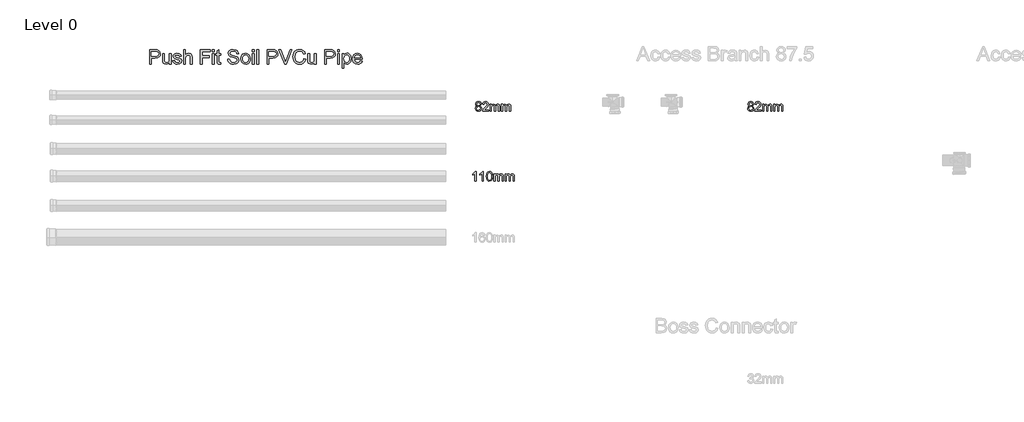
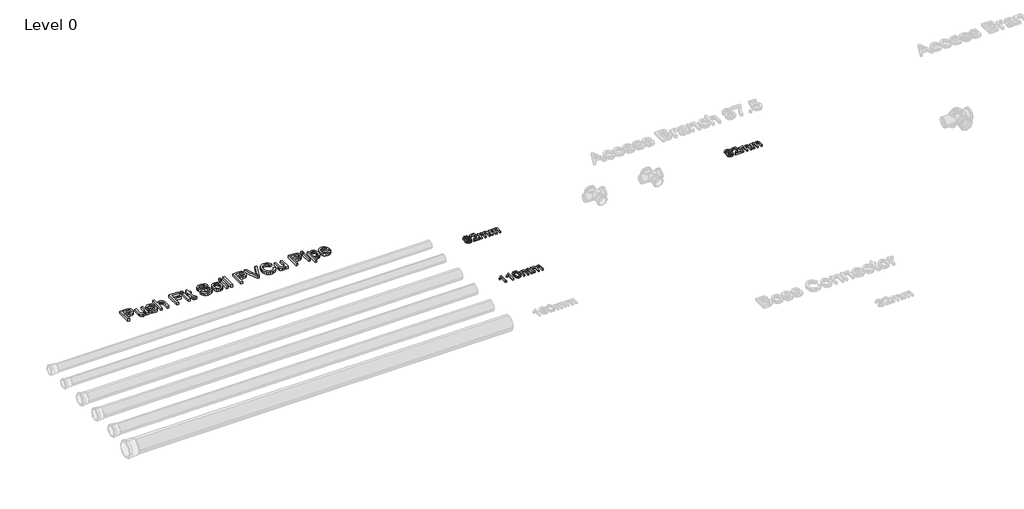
# One storey, part 9 of 23: 4 proxies.
"""IFC4 building model written with IfcOpenShell, lengths in millimetres."""

from ifc_helpers import new_model, si_unit, origin, origin_with_axes, place, context, project, spatial, polyline, outline, extrude, element, save

model = new_model("IFC4")

# Units and contexts
model_context = context("Model", 3, world=origin())
ifc_project = project(units=[si_unit("LENGTHUNIT", "METRE", prefix="MILLI")], contexts=[model_context])

# Site, building, storey
site = spatial("IfcSite", under=ifc_project)
building = spatial("IfcBuilding", under=site)
storey = spatial("IfcBuildingStorey", under=building, Name="Level 0", Elevation=0.0)

# Proxies
placement = place(None, origin())
element("IfcBuildingElementProxy", 1, Name="100mm Arial", ObjectType="100mm Arial", at=placement, inside=storey, context=model_context, shape_type="SweptSolid", body=[
    extrude(outline(polyline([(-20782.2581649, 8840.881174), (-20793.4721072, 8848.5254048), (-20797.1139341, 8860.4244433), (-20795.1307611, 8870.0458375), (-20789.1812418, 8877.9965587), (-20779.9324438, 8883.3330971), (-20768.0514341, 8885.1119433), (-20756.0983091, 8883.2910298), (-20746.7293188, 8877.8282894), (-20740.6716264, 8869.7513663), (-20738.6523957, 8860.0879048), (-20742.2461457, 8848.4893471), (-20753.147588, 8840.881174), (-20740.0586457, 8831.2297317), (-20735.5754726, 8815.304251), (-20737.7990303, 8803.537424), (-20744.4697034, 8793.8138663), (-20754.7701841, 8787.287424), (-20767.8831649, 8785.1119433), (-20780.9961457, 8787.2964385), (-20791.2966264, 8793.849924), (-20797.9672995, 8803.6666308), (-20800.1908572, 8815.6407894), (-20795.5273957, 8831.9388663), (-20782.2581649, 8840.881174)]), holes=[polyline([(-20784.8062418, 8860.0638663), (-20780.4432611, 8850.4004048), (-20767.7389341, 8846.6504048), (-20755.2870111, 8850.3763663), (-20750.960088, 8859.5109817), (-20755.4312418, 8868.9701163), (-20767.8831649, 8872.804251), (-20780.3711457, 8869.054251), (-20784.8062418, 8860.0638663)]), polyline([(-20787.8831649, 8816.0734817), (-20785.8278764, 8806.8066548), (-20778.5562418, 8799.8715587), (-20767.7870111, 8797.4196356), (-20753.1235495, 8802.5758856), (-20747.8831649, 8815.6888663), (-20753.2918188, 8829.054251), (-20759.7221072, 8833.0205971), (-20768.1956649, 8834.3427125), (-20782.678838, 8829.1263663), (-20787.8831649, 8816.0734817)])]), origin_with_axes(), (0.0, 0.0, 1.0), 15.0),
    extrude(outline(polyline([(-20661.7293188, 8798.9580971), (-20661.7293188, 8786.6504048), (-20726.3447034, 8786.6504048), (-20725.022588, 8795.1359817), (-20717.5466264, 8808.2008856), (-20702.1379726, 8822.4677125), (-20680.8879726, 8842.9725202), (-20675.5754726, 8856.9148279), (-20680.5874918, 8868.2008856), (-20693.6764341, 8872.804251), (-20707.3182611, 8868.3090587), (-20712.4985495, 8855.881174), (-20724.8062418, 8857.4196356), (-20721.8224678, 8869.3246837), (-20715.3711457, 8878.0205971), (-20705.7888139, 8883.3391067), (-20693.4120111, 8885.1119433), (-20680.9450639, 8883.1407894), (-20671.3807611, 8877.2273279), (-20665.2960255, 8868.3931933), (-20663.2677803, 8857.6600202), (-20665.4552803, 8845.9893471), (-20672.7269149, 8833.9220394), (-20690.3591264, 8817.0590587), (-20704.5177803, 8805.2201163), (-20710.0706649, 8798.9580971), (-20661.7293188, 8798.9580971)])), origin_with_axes(), (0.0, 0.0, 1.0), 15.0),
    extrude(outline(polyline([(-20646.3447034, 8786.6504048), (-20646.3447034, 8858.9580971), (-20634.0370111, 8858.9580971), (-20634.0370111, 8847.0590587), (-20625.5754726, 8856.8066548), (-20613.5322034, 8860.4965587), (-20601.2004726, 8856.7345394), (-20594.4216264, 8846.193674), (-20584.8182611, 8856.9208375), (-20572.6908572, 8860.4965587), (-20563.4390543, 8859.0091788), (-20556.5971072, 8854.5470394), (-20552.3693428, 8846.9899481), (-20550.960088, 8836.2177125), (-20550.960088, 8786.6504048), (-20563.2677803, 8786.6504048), (-20563.2677803, 8830.929251), (-20564.4096072, 8841.2056933), (-20568.5442226, 8846.2657894), (-20575.5754726, 8848.1888663), (-20587.678838, 8843.2609817), (-20592.4985495, 8827.4677125), (-20592.4985495, 8786.6504048), (-20604.8062418, 8786.6504048), (-20604.8062418, 8832.2994433), (-20607.6547995, 8844.2225202), (-20616.9937418, 8848.1888663), (-20626.1043188, 8845.5446356), (-20632.1620111, 8837.804251), (-20634.0370111, 8823.116751), (-20634.0370111, 8786.6504048), (-20646.3447034, 8786.6504048)])), origin_with_axes(), (0.0, 0.0, 1.0), 15.0),
    extrude(outline(polyline([(-20532.4985495, 8786.6504048), (-20532.4985495, 8858.9580971), (-20520.1908572, 8858.9580971), (-20520.1908572, 8847.0590587), (-20511.7293188, 8856.8066548), (-20499.6860495, 8860.4965587), (-20487.3543188, 8856.7345394), (-20480.5754726, 8846.193674), (-20470.9721072, 8856.9208375), (-20458.8447034, 8860.4965587), (-20449.5929005, 8859.0091788), (-20442.7509534, 8854.5470394), (-20438.5231889, 8846.9899481), (-20437.1139341, 8836.2177125), (-20437.1139341, 8786.6504048), (-20449.4216264, 8786.6504048), (-20449.4216264, 8830.929251), (-20450.5634534, 8841.2056933), (-20454.6980688, 8846.2657894), (-20461.7293188, 8848.1888663), (-20473.8326841, 8843.2609817), (-20478.6523957, 8827.4677125), (-20478.6523957, 8786.6504048), (-20490.960088, 8786.6504048), (-20490.960088, 8832.2994433), (-20493.8086457, 8844.2225202), (-20503.147588, 8848.1888663), (-20512.2581649, 8845.5446356), (-20518.3158572, 8837.804251), (-20520.1908572, 8823.116751), (-20520.1908572, 8786.6504048), (-20532.4985495, 8786.6504048)])), origin_with_axes(), (0.0, 0.0, 1.0), 15.0),
])
element("IfcBuildingElementProxy", 2, Name="100mm Arial", ObjectType="100mm Arial", at=placement, inside=storey, context=model_context, shape_type="SweptSolid", body=[
    extrude(outline(polyline([(-23582.2581649, 8840.881174), (-23593.4721072, 8848.5254048), (-23597.1139341, 8860.4244433), (-23595.1307611, 8870.0458375), (-23589.1812418, 8877.9965587), (-23579.9324438, 8883.3330971), (-23568.0514341, 8885.1119433), (-23556.0983091, 8883.2910298), (-23546.7293188, 8877.8282894), (-23540.6716264, 8869.7513663), (-23538.6523957, 8860.0879048), (-23542.2461457, 8848.4893471), (-23553.147588, 8840.881174), (-23540.0586457, 8831.2297317), (-23535.5754726, 8815.304251), (-23537.7990303, 8803.537424), (-23544.4697034, 8793.8138663), (-23554.7701841, 8787.287424), (-23567.8831649, 8785.1119433), (-23580.9961457, 8787.2964385), (-23591.2966264, 8793.849924), (-23597.9672995, 8803.6666308), (-23600.1908572, 8815.6407894), (-23595.5273957, 8831.9388663), (-23582.2581649, 8840.881174)]), holes=[polyline([(-23584.8062418, 8860.0638663), (-23580.4432611, 8850.4004048), (-23567.7389341, 8846.6504048), (-23555.2870111, 8850.3763663), (-23550.960088, 8859.5109817), (-23555.4312418, 8868.9701163), (-23567.8831649, 8872.804251), (-23580.3711457, 8869.054251), (-23584.8062418, 8860.0638663)]), polyline([(-23587.8831649, 8816.0734817), (-23585.8278764, 8806.8066548), (-23578.5562418, 8799.8715587), (-23567.7870111, 8797.4196356), (-23553.1235495, 8802.5758856), (-23547.8831649, 8815.6888663), (-23553.2918188, 8829.054251), (-23559.7221072, 8833.0205971), (-23568.1956649, 8834.3427125), (-23582.678838, 8829.1263663), (-23587.8831649, 8816.0734817)])]), origin_with_axes(), (0.0, 0.0, 1.0), 15.0),
    extrude(outline(polyline([(-23461.7293188, 8798.9580971), (-23461.7293188, 8786.6504048), (-23526.3447034, 8786.6504048), (-23525.022588, 8795.1359817), (-23517.5466264, 8808.2008856), (-23502.1379726, 8822.4677125), (-23480.8879726, 8842.9725202), (-23475.5754726, 8856.9148279), (-23480.5874918, 8868.2008856), (-23493.6764341, 8872.804251), (-23507.3182611, 8868.3090587), (-23512.4985495, 8855.881174), (-23524.8062418, 8857.4196356), (-23521.8224678, 8869.3246837), (-23515.3711457, 8878.0205971), (-23505.7888139, 8883.3391067), (-23493.4120111, 8885.1119433), (-23480.9450639, 8883.1407894), (-23471.3807611, 8877.2273279), (-23465.2960255, 8868.3931933), (-23463.2677803, 8857.6600202), (-23465.4552803, 8845.9893471), (-23472.7269149, 8833.9220394), (-23490.3591264, 8817.0590587), (-23504.5177803, 8805.2201163), (-23510.0706649, 8798.9580971), (-23461.7293188, 8798.9580971)])), origin_with_axes(), (0.0, 0.0, 1.0), 15.0),
    extrude(outline(polyline([(-23446.3447034, 8786.6504048), (-23446.3447034, 8858.9580971), (-23434.0370111, 8858.9580971), (-23434.0370111, 8847.0590587), (-23425.5754726, 8856.8066548), (-23413.5322034, 8860.4965587), (-23401.2004726, 8856.7345394), (-23394.4216264, 8846.193674), (-23384.8182611, 8856.9208375), (-23372.6908572, 8860.4965587), (-23363.4390543, 8859.0091788), (-23356.5971072, 8854.5470394), (-23352.3693428, 8846.9899481), (-23350.960088, 8836.2177125), (-23350.960088, 8786.6504048), (-23363.2677803, 8786.6504048), (-23363.2677803, 8830.929251), (-23364.4096072, 8841.2056933), (-23368.5442226, 8846.2657894), (-23375.5754726, 8848.1888663), (-23387.678838, 8843.2609817), (-23392.4985495, 8827.4677125), (-23392.4985495, 8786.6504048), (-23404.8062418, 8786.6504048), (-23404.8062418, 8832.2994433), (-23407.6547995, 8844.2225202), (-23416.9937418, 8848.1888663), (-23426.1043188, 8845.5446356), (-23432.1620111, 8837.804251), (-23434.0370111, 8823.116751), (-23434.0370111, 8786.6504048), (-23446.3447034, 8786.6504048)])), origin_with_axes(), (0.0, 0.0, 1.0), 15.0),
    extrude(outline(polyline([(-23332.4985495, 8786.6504048), (-23332.4985495, 8858.9580971), (-23320.1908572, 8858.9580971), (-23320.1908572, 8847.0590587), (-23311.7293188, 8856.8066548), (-23299.6860495, 8860.4965587), (-23287.3543188, 8856.7345394), (-23280.5754726, 8846.193674), (-23270.9721072, 8856.9208375), (-23258.8447034, 8860.4965587), (-23249.5929005, 8859.0091788), (-23242.7509534, 8854.5470394), (-23238.5231889, 8846.9899481), (-23237.1139341, 8836.2177125), (-23237.1139341, 8786.6504048), (-23249.4216264, 8786.6504048), (-23249.4216264, 8830.929251), (-23250.5634534, 8841.2056933), (-23254.6980688, 8846.2657894), (-23261.7293188, 8848.1888663), (-23273.8326841, 8843.2609817), (-23278.6523957, 8827.4677125), (-23278.6523957, 8786.6504048), (-23290.960088, 8786.6504048), (-23290.960088, 8832.2994433), (-23293.8086457, 8844.2225202), (-23303.147588, 8848.1888663), (-23312.2581649, 8845.5446356), (-23318.3158572, 8837.804251), (-23320.1908572, 8823.116751), (-23320.1908572, 8786.6504048), (-23332.4985495, 8786.6504048)])), origin_with_axes(), (0.0, 0.0, 1.0), 15.0),
])
element("IfcBuildingElementProxy", 3, Name="100mm Arial", ObjectType="100mm Arial", at=placement, inside=storey, context=model_context, shape_type="SweptSolid", body=[
    extrude(outline(polyline([(-23591.7293188, 8067.8368131), (-23604.0370111, 8067.8368131), (-23604.0370111, 8144.5675823), (-23615.6956649, 8136.2622939), (-23628.6523957, 8130.0483515), (-23628.6523957, 8141.6829669), (-23610.6115303, 8153.19739), (-23599.6620111, 8166.2983515), (-23591.7293188, 8166.2983515), (-23591.7293188, 8067.8368131)])), origin_with_axes(), (0.0, 0.0, 1.0), 15.0),
    extrude(outline(polyline([(-23516.3447034, 8067.8368131), (-23528.6523957, 8067.8368131), (-23528.6523957, 8144.5675823), (-23540.3110495, 8136.2622939), (-23553.2677803, 8130.0483515), (-23553.2677803, 8141.6829669), (-23535.2269149, 8153.19739), (-23524.2773957, 8166.2983515), (-23516.3447034, 8166.2983515), (-23516.3447034, 8067.8368131)])), origin_with_axes(), (0.0, 0.0, 1.0), 15.0),
    extrude(outline(polyline([(-23487.1139341, 8116.2743131), (-23483.4961457, 8144.60364), (-23472.7509534, 8160.9377746), (-23454.8062418, 8166.2983515), (-23440.4312418, 8163.1252746), (-23430.5033572, 8153.97864), (-23424.7341264, 8139.4113323), (-23422.4985495, 8116.2743131), (-23426.0802803, 8088.0651785), (-23436.7894149, 8071.6949862), (-23454.8062418, 8066.2983515), (-23467.5947034, 8068.6421015), (-23477.3062418, 8075.6733515), (-23484.6620111, 8092.3259958), (-23487.1139341, 8116.2743131)]), holes=[polyline([(-23474.8062418, 8116.2983515), (-23473.3639341, 8096.9383756), (-23469.0370111, 8085.7334477), (-23462.5947034, 8080.3878948), (-23454.8062418, 8078.6060439), (-23447.0177803, 8080.3939044), (-23440.5754726, 8085.7574862), (-23436.2485495, 8096.9684237), (-23434.8062418, 8116.2983515), (-23436.2004726, 8135.2226304), (-23440.3831649, 8146.5146977), (-23446.8134534, 8152.1216689), (-23454.9504726, 8153.9906592), (-23462.6547995, 8152.3440246), (-23468.8447034, 8147.4041208), (-23473.3158572, 8135.4089285), (-23474.8062418, 8116.2983515)])]), origin_with_axes(), (0.0, 0.0, 1.0), 15.0),
    extrude(outline(polyline([(-23408.6523957, 8067.8368131), (-23408.6523957, 8140.1445054), (-23396.3447034, 8140.1445054), (-23396.3447034, 8128.2454669), (-23387.8831649, 8137.9930631), (-23375.8398957, 8141.6829669), (-23363.5081649, 8137.9209477), (-23356.7293188, 8127.3800823), (-23347.1259534, 8138.1072458), (-23334.9985495, 8141.6829669), (-23325.7467466, 8140.1955871), (-23318.9047995, 8135.7334477), (-23314.6770351, 8128.1763564), (-23313.2677803, 8117.4041208), (-23313.2677803, 8067.8368131), (-23325.5754726, 8067.8368131), (-23325.5754726, 8112.1156592), (-23326.7172995, 8122.3921015), (-23330.8519149, 8127.4521977), (-23337.8831649, 8129.3752746), (-23349.9865303, 8124.44739), (-23354.8062418, 8108.6541208), (-23354.8062418, 8067.8368131), (-23367.1139341, 8067.8368131), (-23367.1139341, 8113.4858515), (-23369.9624918, 8125.4089285), (-23379.3014341, 8129.3752746), (-23388.4120111, 8126.7310439), (-23394.4697034, 8118.9906592), (-23396.3447034, 8104.3031592), (-23396.3447034, 8067.8368131), (-23408.6523957, 8067.8368131)])), origin_with_axes(), (0.0, 0.0, 1.0), 15.0),
    extrude(outline(polyline([(-23294.8062418, 8067.8368131), (-23294.8062418, 8140.1445054), (-23282.4985495, 8140.1445054), (-23282.4985495, 8128.2454669), (-23274.0370111, 8137.9930631), (-23261.9937418, 8141.6829669), (-23249.6620111, 8137.9209477), (-23242.8831649, 8127.3800823), (-23233.2797995, 8138.1072458), (-23221.1523957, 8141.6829669), (-23211.9005928, 8140.1955871), (-23205.0586457, 8135.7334477), (-23200.8308813, 8128.1763564), (-23199.4216264, 8117.4041208), (-23199.4216264, 8067.8368131), (-23211.7293188, 8067.8368131), (-23211.7293188, 8112.1156592), (-23212.8711457, 8122.3921015), (-23217.0057611, 8127.4521977), (-23224.0370111, 8129.3752746), (-23236.1403764, 8124.44739), (-23240.960088, 8108.6541208), (-23240.960088, 8067.8368131), (-23253.2677803, 8067.8368131), (-23253.2677803, 8113.4858515), (-23256.116338, 8125.4089285), (-23265.4552803, 8129.3752746), (-23274.5658572, 8126.7310439), (-23280.6235495, 8118.9906592), (-23282.4985495, 8104.3031592), (-23282.4985495, 8067.8368131), (-23294.8062418, 8067.8368131)])), origin_with_axes(), (0.0, 0.0, 1.0), 15.0),
])
element("IfcBuildingElementProxy", 4, Name="150mm Arial", ObjectType="150mm Arial", at=placement, inside=storey, context=model_context, shape_type="SweptSolid", body=[
    extrude(outline(polyline([(-26950.0881298, 9272.4182401), (-26950.0881298, 9420.1105478), (-26895.3525529, 9420.1105478), (-26873.2852452, 9418.7042978), (-26855.3465433, 9411.7992498), (-26843.7179375, 9397.5204036), (-26839.3188991, 9377.3821825), (-26842.2891515, 9359.9753315), (-26851.1999087, 9345.4711248), (-26867.8630697, 9335.6814613), (-26894.0905337, 9332.4182401), (-26931.6265914, 9332.4182401), (-26931.6265914, 9272.4182401), (-26950.0881298, 9272.4182401)]), holes=[polyline([(-26931.6265914, 9350.8797786), (-26893.0088029, 9350.8797786), (-26876.6386106, 9352.5744901), (-26865.8213029, 9357.6586248), (-26859.7906539, 9365.8166776), (-26857.7804375, 9376.733144), (-26862.5220241, 9392.0216055), (-26874.9799568, 9400.3869901), (-26893.4414952, 9401.6490094), (-26931.6265914, 9401.6490094), (-26931.6265914, 9350.8797786)])]), origin_with_axes(), (0.0, 0.0, 1.0), 25.0),
    extrude(outline(polyline([(-26747.0112068, 9272.4182401), (-26747.0112068, 9291.0600671), (-26761.4703414, 9275.3479276), (-26780.3285145, 9270.1105478), (-26797.6902933, 9273.7884325), (-26809.6614471, 9283.0192017), (-26815.1602452, 9296.6129517), (-26816.241976, 9313.7764132), (-26816.241976, 9380.8797786), (-26797.7804375, 9380.8797786), (-26797.7804375, 9322.4663171), (-26796.6626491, 9303.6442017), (-26789.3609664, 9292.592519), (-26775.6049568, 9288.5720863), (-26760.1902933, 9292.6826632), (-26750.0039952, 9303.8785767), (-26747.0112068, 9324.4494901), (-26747.0112068, 9380.8797786), (-26728.5496683, 9380.8797786), (-26728.5496683, 9272.4182401), (-26747.0112068, 9272.4182401)])), origin_with_axes(), (0.0, 0.0, 1.0), 25.0),
    extrude(outline(polyline([(-26710.0881298, 9304.7259325), (-26691.6265914, 9307.0336248), (-26688.7149327, 9299.1369901), (-26683.0809183, 9293.3317017), (-26663.5015914, 9288.5720863), (-26644.679476, 9292.9350671), (-26638.5496683, 9303.1754517), (-26644.7155337, 9311.4687209), (-26663.7179375, 9316.733144), (-26691.5184183, 9325.7655959), (-26703.6518318, 9336.3124709), (-26707.7804375, 9351.2042978), (-26704.4631298, 9364.9603075), (-26695.4126491, 9375.4711248), (-26683.6758702, 9380.9338651), (-26667.7924568, 9383.1874709), (-26645.3285145, 9379.5636728), (-26631.0496683, 9369.7559805), (-26624.7035145, 9353.1874709), (-26643.1650529, 9350.8797786), (-26650.1061587, 9361.0660767), (-26666.3501491, 9364.7259325), (-26684.0184183, 9361.2283363), (-26689.3188991, 9353.0792978), (-26687.1193798, 9347.7067017), (-26680.2323606, 9343.6321825), (-26664.3309183, 9339.701894), (-26637.2335625, 9331.0119901), (-26624.6494279, 9321.1682401), (-26620.0881298, 9305.1225671), (-26625.4426971, 9287.4542978), (-26640.8934183, 9274.6357882), (-26663.7539952, 9270.1105478), (-26682.3687789, 9272.2920382), (-26695.9535145, 9278.8365094), (-26705.0220241, 9289.6718459), (-26710.0881298, 9304.7259325)])), origin_with_axes(), (0.0, 0.0, 1.0), 25.0),
    extrude(outline(polyline([(-26599.3188991, 9272.4182401), (-26599.3188991, 9420.1105478), (-26580.8573606, 9420.1105478), (-26580.8573606, 9365.8076632), (-26566.461327, 9378.842519), (-26548.7299568, 9383.1874709), (-26527.9967837, 9378.4458844), (-26515.4126491, 9365.3389132), (-26511.6265914, 9341.0720863), (-26511.6265914, 9272.4182401), (-26530.0881298, 9272.4182401), (-26530.0881298, 9339.1610286), (-26531.5574808, 9350.717519), (-26535.9655337, 9358.6321825), (-26543.0688991, 9363.202495), (-26552.6241875, 9364.7259325), (-26567.7503895, 9360.6153555), (-26577.8465433, 9349.4735286), (-26580.8573606, 9330.0384325), (-26580.8573606, 9272.4182401), (-26599.3188991, 9272.4182401)])), origin_with_axes(), (0.0, 0.0, 1.0), 25.0),
    extrude(outline(polyline([(-26426.241976, 9272.4182401), (-26426.241976, 9420.1105478), (-26327.0112068, 9420.1105478), (-26327.0112068, 9401.6490094), (-26407.7804375, 9401.6490094), (-26407.7804375, 9357.8028555), (-26338.5496683, 9357.8028555), (-26338.5496683, 9339.3413171), (-26407.7804375, 9339.3413171), (-26407.7804375, 9272.4182401), (-26426.241976, 9272.4182401)])), origin_with_axes(), (0.0, 0.0, 1.0), 25.0),
    extrude(outline(polyline([(-26303.9342837, 9272.4182401), (-26303.9342837, 9380.8797786), (-26285.4727452, 9380.8797786), (-26285.4727452, 9272.4182401), (-26303.9342837, 9272.4182401)])), origin_with_axes(), (0.0, 0.0, 1.0), 25.0),
    extrude(outline(polyline([(-26303.9342837, 9401.6490094), (-26303.9342837, 9420.1105478), (-26285.4727452, 9420.1105478), (-26285.4727452, 9401.6490094), (-26303.9342837, 9401.6490094)])), origin_with_axes(), (0.0, 0.0, 1.0), 25.0),
    extrude(outline(polyline([(-26218.5496683, 9287.8148748), (-26216.241976, 9271.8773748), (-26230.0520721, 9270.1105478), (-26245.5208221, 9273.1754517), (-26253.2371683, 9281.2163171), (-26255.4727452, 9302.1658363), (-26255.4727452, 9362.4182401), (-26269.3188991, 9362.4182401), (-26269.3188991, 9380.8797786), (-26255.4727452, 9380.8797786), (-26255.4727452, 9407.2379517), (-26237.0112068, 9418.0913171), (-26237.0112068, 9380.8797786), (-26218.5496683, 9380.8797786), (-26218.5496683, 9362.4182401), (-26237.0112068, 9362.4182401), (-26237.0112068, 9302.7067017), (-26236.0376491, 9293.1874709), (-26232.882601, 9289.8160767), (-26226.5905337, 9288.5720863), (-26218.5496683, 9287.8148748)])), origin_with_axes(), (0.0, 0.0, 1.0), 25.0),
    extrude(outline(polyline([(-26147.0112068, 9323.1874709), (-26128.5496683, 9323.1874709), (-26122.6001491, 9304.7079036), (-26108.0688991, 9293.0252113), (-26085.929476, 9288.5720863), (-26066.6386106, 9291.9434805), (-26054.1806779, 9301.2103075), (-26050.0881298, 9313.5961248), (-26053.1530337, 9325.1165575), (-26065.7011106, 9333.4999709), (-26092.5821202, 9340.5492498), (-26121.5184183, 9349.6538171), (-26137.2215433, 9363.3917978), (-26142.3958221, 9381.7451632), (-26140.795762, 9392.5579637), (-26135.9955818, 9402.6405959), (-26128.1214832, 9411.186269), (-26117.2996683, 9417.3881921), (-26089.9318798, 9422.4182401), (-26060.7251491, 9417.1538171), (-26049.5292356, 9410.654418), (-26041.2539952, 9401.6850671), (-26036.0166154, 9390.8046584), (-26033.9342837, 9378.5720863), (-26052.3958221, 9378.5720863), (-26055.7852452, 9389.5877113), (-26062.8525529, 9397.5384325), (-26073.8952212, 9402.3521344), (-26089.210726, 9403.9567017), (-26104.8868077, 9402.3701632), (-26115.6410145, 9397.6105478), (-26121.8609664, 9390.6063411), (-26123.9342837, 9382.2860286), (-26122.4649327, 9375.1916776), (-26118.0568798, 9369.4855478), (-26087.9126491, 9359.1730478), (-26055.2443798, 9349.9062209), (-26044.7200409, 9343.2085046), (-26037.3777933, 9334.9422786), (-26031.6265914, 9314.0648748), (-26033.280738, 9302.6841656), (-26038.2431779, 9291.9795382), (-26046.3110866, 9282.7667978), (-26057.2816395, 9275.8617498), (-26085.2083221, 9270.1105478), (-26103.295762, 9271.6610286), (-26118.1830818, 9276.3124709), (-26130.0415553, 9284.0829036), (-26139.0424568, 9294.9903555), (-26144.820702, 9308.2776151), (-26147.0112068, 9323.1874709)])), origin_with_axes(), (0.0, 0.0, 1.0), 25.0),
    extrude(outline(polyline([(-26010.8573606, 9326.6490094), (-26006.8639712, 9352.7998507), (-25994.8838029, 9371.1802594), (-25980.0821202, 9380.185668), (-25962.3597645, 9383.1874709), (-25942.9652332, 9379.5321224), (-25927.4739471, 9368.5660767), (-25917.3191995, 9351.1547185), (-25913.9342837, 9328.1634325), (-25915.4306779, 9309.5125911), (-25919.9198606, 9295.3148748), (-25927.2711226, 9284.6823627), (-25937.3537548, 9276.7271344), (-25949.3294159, 9271.7646945), (-25962.3597645, 9270.1105478), (-25981.9886707, 9273.7523748), (-25997.4619279, 9284.6778555), (-26007.5085024, 9302.4542978), (-26010.8573606, 9326.6490094)]), holes=[polyline([(-25992.3958221, 9326.6850671), (-25990.2594039, 9309.9768339), (-25983.8501491, 9298.0732882), (-25974.2047164, 9290.9473868), (-25962.3597645, 9288.5720863), (-25950.5688991, 9290.9609084), (-25940.9414952, 9298.1273748), (-25934.5322404, 9310.1886728), (-25932.3958221, 9327.2619901), (-25934.545762, 9343.4834445), (-25940.9955818, 9355.2247305), (-25950.6365072, 9362.350632), (-25962.3597645, 9364.7259325), (-25974.2047164, 9362.3596464), (-25983.8501491, 9355.2607882), (-25990.2594039, 9343.3842858), (-25992.3958221, 9326.6850671)])]), origin_with_axes(), (0.0, 0.0, 1.0), 25.0),
    extrude(outline(polyline([(-25893.1650529, 9272.4182401), (-25893.1650529, 9380.8797786), (-25874.7035145, 9380.8797786), (-25874.7035145, 9272.4182401), (-25893.1650529, 9272.4182401)])), origin_with_axes(), (0.0, 0.0, 1.0), 25.0),
    extrude(outline(polyline([(-25893.1650529, 9401.6490094), (-25893.1650529, 9420.1105478), (-25874.7035145, 9420.1105478), (-25874.7035145, 9401.6490094), (-25893.1650529, 9401.6490094)])), origin_with_axes(), (0.0, 0.0, 1.0), 25.0),
    extrude(outline(polyline([(-25847.0112068, 9272.4182401), (-25847.0112068, 9420.1105478), (-25828.5496683, 9420.1105478), (-25828.5496683, 9272.4182401), (-25847.0112068, 9272.4182401)])), origin_with_axes(), (0.0, 0.0, 1.0), 25.0),
    extrude(outline(polyline([(-25740.8573606, 9272.4182401), (-25740.8573606, 9420.1105478), (-25686.1217837, 9420.1105478), (-25664.054476, 9418.7042978), (-25646.1157741, 9411.7992498), (-25634.4871683, 9397.5204036), (-25630.0881298, 9377.3821825), (-25633.0583822, 9359.9753315), (-25641.9691395, 9345.4711248), (-25658.6323005, 9335.6814613), (-25684.8597645, 9332.4182401), (-25722.3958221, 9332.4182401), (-25722.3958221, 9272.4182401), (-25740.8573606, 9272.4182401)]), holes=[polyline([(-25722.3958221, 9350.8797786), (-25683.7780337, 9350.8797786), (-25667.4078414, 9352.5744901), (-25656.5905337, 9357.6586248), (-25650.5598846, 9365.8166776), (-25648.5496683, 9376.733144), (-25653.2912548, 9392.0216055), (-25665.7491875, 9400.3869901), (-25684.210726, 9401.6490094), (-25722.3958221, 9401.6490094), (-25722.3958221, 9350.8797786)])]), origin_with_axes(), (0.0, 0.0, 1.0), 25.0),
    extrude(outline(polyline([(-25561.0737068, 9272.4182401), (-25619.8477452, 9420.1105478), (-25600.0881298, 9420.1105478), (-25560.7491875, 9313.7042978), (-25552.7804375, 9289.7259325), (-25544.9198606, 9313.7042978), (-25505.4727452, 9420.1105478), (-25485.7131298, 9420.1105478), (-25541.9991875, 9272.4182401), (-25561.0737068, 9272.4182401)])), origin_with_axes(), (0.0, 0.0, 1.0), 25.0),
    extrude(outline(polyline([(-25364.7035145, 9324.9182401), (-25346.241976, 9320.1586248), (-25354.7606058, 9298.6457041), (-25368.1289952, 9282.9290575), (-25385.6890914, 9273.3151752), (-25406.7828414, 9270.1105478), (-25428.1966034, 9272.5354276), (-25445.2023125, 9279.8100671), (-25458.2371683, 9291.6820623), (-25467.7383702, 9307.8990094), (-25473.5391515, 9326.9645142), (-25475.4727452, 9347.3821825), (-25473.2867476, 9368.9176392), (-25466.7287548, 9387.514394), (-25456.1413149, 9402.5820022), (-25441.866976, 9413.530019), (-25424.9378895, 9420.1961849), (-25406.3862068, 9422.4182401), (-25386.1443197, 9419.5426392), (-25369.4090433, 9410.9158363), (-25356.703214, 9397.0696825), (-25348.5496683, 9378.5360286), (-25367.0112068, 9374.1369901), (-25373.4114471, 9387.600031), (-25382.1554375, 9396.8353075), (-25393.351351, 9402.1763531), (-25407.1073606, 9403.9567017), (-25422.9637308, 9401.982543), (-25435.9895721, 9396.0600671), (-25445.873887, 9386.811269), (-25452.3056779, 9374.858144), (-25457.0112068, 9347.4182401), (-25451.4402933, 9315.6153555), (-25444.3188991, 9303.7388531), (-25434.0965433, 9295.2968459), (-25421.8414351, 9290.2532762), (-25408.6217837, 9288.5720863), (-25393.2116274, 9290.8617498), (-25380.3705818, 9297.7307401), (-25370.6755697, 9309.1069421), (-25364.7035145, 9324.9182401)])), origin_with_axes(), (0.0, 0.0, 1.0), 25.0),
    extrude(outline(polyline([(-25253.9342837, 9272.4182401), (-25253.9342837, 9291.0600671), (-25268.3934183, 9275.3479276), (-25287.2515914, 9270.1105478), (-25304.6133702, 9273.7884325), (-25316.5845241, 9283.0192017), (-25322.0833221, 9296.6129517), (-25323.1650529, 9313.7764132), (-25323.1650529, 9380.8797786), (-25304.7035145, 9380.8797786), (-25304.7035145, 9322.4663171), (-25303.585726, 9303.6442017), (-25296.2840433, 9292.592519), (-25282.5280337, 9288.5720863), (-25267.1133702, 9292.6826632), (-25256.9270721, 9303.8785767), (-25253.9342837, 9324.4494901), (-25253.9342837, 9380.8797786), (-25235.4727452, 9380.8797786), (-25235.4727452, 9272.4182401), (-25253.9342837, 9272.4182401)])), origin_with_axes(), (0.0, 0.0, 1.0), 25.0),
    extrude(outline(polyline([(-25150.0881298, 9272.4182401), (-25150.0881298, 9420.1105478), (-25095.3525529, 9420.1105478), (-25073.2852452, 9418.7042978), (-25055.3465433, 9411.7992498), (-25043.7179375, 9397.5204036), (-25039.3188991, 9377.3821825), (-25042.2891515, 9359.9753315), (-25051.1999087, 9345.4711248), (-25067.8630697, 9335.6814613), (-25094.0905337, 9332.4182401), (-25131.6265914, 9332.4182401), (-25131.6265914, 9272.4182401), (-25150.0881298, 9272.4182401)]), holes=[polyline([(-25131.6265914, 9350.8797786), (-25093.0088029, 9350.8797786), (-25076.6386106, 9352.5744901), (-25065.8213029, 9357.6586248), (-25059.7906539, 9365.8166776), (-25057.7804375, 9376.733144), (-25062.5220241, 9392.0216055), (-25074.9799568, 9400.3869901), (-25093.4414952, 9401.6490094), (-25131.6265914, 9401.6490094), (-25131.6265914, 9350.8797786)])]), origin_with_axes(), (0.0, 0.0, 1.0), 25.0),
    extrude(outline(polyline([(-25016.241976, 9272.4182401), (-25016.241976, 9380.8797786), (-24997.7804375, 9380.8797786), (-24997.7804375, 9272.4182401), (-25016.241976, 9272.4182401)])), origin_with_axes(), (0.0, 0.0, 1.0), 25.0),
    extrude(outline(polyline([(-25016.241976, 9401.6490094), (-25016.241976, 9420.1105478), (-24997.7804375, 9420.1105478), (-24997.7804375, 9401.6490094), (-25016.241976, 9401.6490094)])), origin_with_axes(), (0.0, 0.0, 1.0), 25.0),
    extrude(outline(polyline([(-24970.0881298, 9230.8797786), (-24970.0881298, 9380.8797786), (-24951.6265914, 9380.8797786), (-24951.6265914, 9362.7788171), (-24938.8621683, 9378.0853075), (-24921.6265914, 9383.1874709), (-24909.1416154, 9381.4026151), (-24898.2251491, 9376.0480478), (-24889.3369279, 9367.4482882), (-24882.9366875, 9355.9278555), (-24877.7804375, 9327.4783363), (-24879.2362669, 9311.6895743), (-24883.6037548, 9297.5684805), (-24890.7431779, 9285.8317017), (-24900.5148125, 9277.1958844), (-24911.8955217, 9271.881882), (-24923.8621683, 9270.1105478), (-24939.9258702, 9274.8521344), (-24951.6265914, 9286.8413171), (-24951.6265914, 9230.8797786), (-24970.0881298, 9230.8797786)]), holes=[polyline([(-24951.6265914, 9325.7836248), (-24949.6298967, 9309.233144), (-24943.6398125, 9297.6586248), (-24934.8011707, 9290.8437209), (-24924.2588029, 9288.5720863), (-24913.5451611, 9290.9248507), (-24904.4811587, 9297.983144), (-24898.3017717, 9309.9813411), (-24896.241976, 9327.1538171), (-24898.2521923, 9343.6141536), (-24904.2828414, 9355.3509325), (-24913.1079616, 9362.3821825), (-24923.5015914, 9364.7259325), (-24933.9357861, 9362.2334445), (-24943.0989471, 9354.7559805), (-24949.4946803, 9342.5279156), (-24951.6265914, 9325.7836248)])]), origin_with_axes(), (0.0, 0.0, 1.0), 25.0),
    extrude(outline(polyline([(-24781.0737068, 9304.7259325), (-24762.9727452, 9302.4182401), (-24769.4946803, 9288.779418), (-24779.9018318, 9278.5841055), (-24793.9598245, 9272.2289373), (-24811.4342837, 9270.1105478), (-24833.0959423, 9273.7658964), (-24849.7636106, 9284.7319421), (-24860.3916154, 9302.2965454), (-24863.9342837, 9325.7475671), (-24860.3555577, 9349.9873507), (-24849.6193798, 9368.1153555), (-24833.1770721, 9379.4194421), (-24812.4799568, 9383.1874709), (-24792.4273726, 9379.4284565), (-24776.4042356, 9368.1514132), (-24765.8979255, 9350.0594661), (-24762.3958221, 9325.8557401), (-24762.5039952, 9320.8797786), (-24845.4727452, 9320.8797786), (-24842.2771322, 9307.060668), (-24834.8537548, 9296.9014132), (-24824.140113, 9290.654418), (-24811.0737068, 9288.5720863), (-24792.9727452, 9292.4302594), (-24781.0737068, 9304.7259325)]), holes=[polyline([(-24845.4727452, 9339.3413171), (-24780.8573606, 9339.3413171), (-24783.3543558, 9349.0949228), (-24788.2491875, 9356.0720863), (-24799.0124087, 9362.5624709), (-24812.5520721, 9364.7259325), (-24824.9964832, 9362.9996704), (-24835.2864471, 9357.8208844), (-24842.4393919, 9349.7484685), (-24845.4727452, 9339.3413171)])]), origin_with_axes(), (0.0, 0.0, 1.0), 25.0),
])

save(model, "model.ifc")
